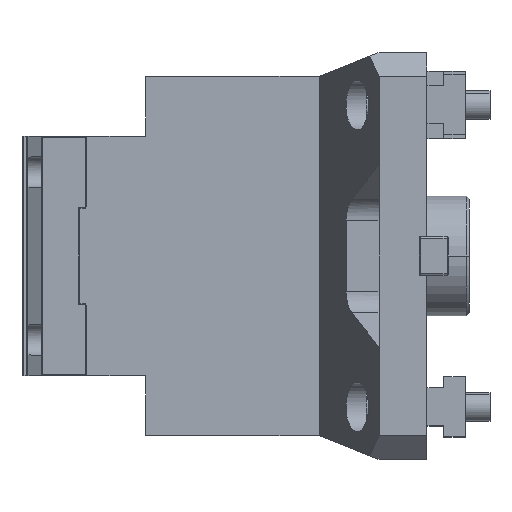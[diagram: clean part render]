
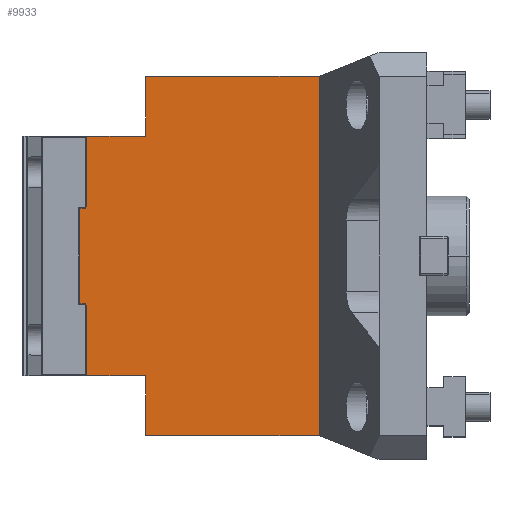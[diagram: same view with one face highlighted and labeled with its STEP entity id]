
A CAD part, left-side view. The second image highlights one B-rep face of the part: STEP entity #9933.
In plain terms, the highlighted planar face has unit normal (-1, 0, 0).
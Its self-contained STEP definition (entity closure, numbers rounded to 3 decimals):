
#6 = CARTESIAN_POINT ( 'NONE',  ( -75., 97.5, -50. ) ) ;
#396 = CARTESIAN_POINT ( 'NONE',  ( -75., 72.5, -50. ) ) ;
#1030 = VERTEX_POINT ( 'NONE', #31580 ) ;
#1433 = ORIENTED_EDGE ( 'NONE', *, *, #30300, .F. ) ;
#2000 = CARTESIAN_POINT ( 'NONE',  ( -75., 72.5, 50. ) ) ;
#2564 = DIRECTION ( 'NONE',  ( 0., 0., 1. ) ) ;
#3222 = CARTESIAN_POINT ( 'NONE',  ( -75., 100., 20. ) ) ;
#3293 = VECTOR ( 'NONE', #2564, 1000. ) ;
#3444 = VERTEX_POINT ( 'NONE', #17048 ) ;
#3758 = LINE ( 'NONE', #15287, #25433 ) ;
#3960 = ORIENTED_EDGE ( 'NONE', *, *, #22688, .F. ) ;
#4500 = DIRECTION ( 'NONE',  ( 0., 0., 1. ) ) ;
#4601 = LINE ( 'NONE', #16521, #17486 ) ;
#4792 = DIRECTION ( 'NONE',  ( 0., -1., 0. ) ) ;
#4864 = CARTESIAN_POINT ( 'NONE',  ( -75., 72.5, 50. ) ) ;
#5556 = ORIENTED_EDGE ( 'NONE', *, *, #13293, .F. ) ;
#5874 = EDGE_CURVE ( 'NONE', #3444, #35717, #29822, .T. ) ;
#6467 = EDGE_CURVE ( 'NONE', #13997, #1030, #38258, .T. ) ;
#6646 = ORIENTED_EDGE ( 'NONE', *, *, #6467, .F. ) ;
#7533 = VERTEX_POINT ( 'NONE', #12058 ) ;
#8483 = DIRECTION ( 'NONE',  ( 0., 1., 0. ) ) ;
#8523 = CARTESIAN_POINT ( 'NONE',  ( -75., 100., 20. ) ) ;
#8682 = CARTESIAN_POINT ( 'NONE',  ( -75., 100., -20. ) ) ;
#8690 = VECTOR ( 'NONE', #37823, 1000. ) ;
#9063 = EDGE_CURVE ( 'NONE', #23863, #15618, #3758, .T. ) ;
#9705 = LINE ( 'NONE', #21617, #18664 ) ;
#9728 = EDGE_LOOP ( 'NONE', ( #18579, #5556, #30608, #6646, #11681, #1433, #37434, #33172, #18544, #3960, #17413, #16156 ) ) ;
#9933 = ADVANCED_FACE ( 'NONE', ( #11295 ), #26285, .F. ) ;
#9989 = VECTOR ( 'NONE', #17664, 1000. ) ;
#11295 = FACE_OUTER_BOUND ( 'NONE', #9728, .T. ) ;
#11502 = LINE ( 'NONE', #17173, #20966 ) ;
#11681 = ORIENTED_EDGE ( 'NONE', *, *, #18766, .F. ) ;
#12058 = CARTESIAN_POINT ( 'NONE',  ( -75., 0., 75. ) ) ;
#13293 = EDGE_CURVE ( 'NONE', #23313, #23863, #9705, .T. ) ;
#13997 = VERTEX_POINT ( 'NONE', #16000 ) ;
#14740 = VERTEX_POINT ( 'NONE', #2000 ) ;
#15287 = CARTESIAN_POINT ( 'NONE',  ( -75., 97.5, 20. ) ) ;
#15354 = VECTOR ( 'NONE', #28015, 1000. ) ;
#15618 = VERTEX_POINT ( 'NONE', #24535 ) ;
#15839 = VECTOR ( 'NONE', #26144, 1000. ) ;
#16000 = CARTESIAN_POINT ( 'NONE',  ( -75., 97.5, -20. ) ) ;
#16014 = LINE ( 'NONE', #24526, #15354 ) ;
#16156 = ORIENTED_EDGE ( 'NONE', *, *, #30059, .F. ) ;
#16521 = CARTESIAN_POINT ( 'NONE',  ( -75., 97.5, 50. ) ) ;
#17048 = CARTESIAN_POINT ( 'NONE',  ( -75., 72.5, -75. ) ) ;
#17173 = CARTESIAN_POINT ( 'NONE',  ( -75., 0., -75. ) ) ;
#17404 = VERTEX_POINT ( 'NONE', #6 ) ;
#17413 = ORIENTED_EDGE ( 'NONE', *, *, #22209, .F. ) ;
#17416 = LINE ( 'NONE', #29043, #8690 ) ;
#17486 = VECTOR ( 'NONE', #4792, 1000. ) ;
#17664 = DIRECTION ( 'NONE',  ( 0., 0., 1. ) ) ;
#18544 = ORIENTED_EDGE ( 'NONE', *, *, #24832, .F. ) ;
#18579 = ORIENTED_EDGE ( 'NONE', *, *, #9063, .F. ) ;
#18664 = VECTOR ( 'NONE', #27623, 1000. ) ;
#18766 = EDGE_CURVE ( 'NONE', #17404, #13997, #22642, .T. ) ;
#19861 = VERTEX_POINT ( 'NONE', #22803 ) ;
#20451 = DIRECTION ( 'NONE',  ( 0., 0., -1. ) ) ;
#20966 = VECTOR ( 'NONE', #29399, 1000. ) ;
#21617 = CARTESIAN_POINT ( 'NONE',  ( -75., 97.5, 20. ) ) ;
#22209 = EDGE_CURVE ( 'NONE', #14740, #36056, #22434, .T. ) ;
#22320 = VECTOR ( 'NONE', #4500, 1000. ) ;
#22405 = CARTESIAN_POINT ( 'NONE',  ( -75., 72.5, 75. ) ) ;
#22434 = LINE ( 'NONE', #4864, #22320 ) ;
#22611 = CARTESIAN_POINT ( 'NONE',  ( -75., 97.5, 20. ) ) ;
#22642 = LINE ( 'NONE', #28840, #3293 ) ;
#22688 = EDGE_CURVE ( 'NONE', #36056, #7533, #17416, .T. ) ;
#22803 = CARTESIAN_POINT ( 'NONE',  ( -75., 0., -75. ) ) ;
#23313 = VERTEX_POINT ( 'NONE', #8523 ) ;
#23347 = CARTESIAN_POINT ( 'NONE',  ( -75., 0., 0. ) ) ;
#23863 = VERTEX_POINT ( 'NONE', #22611 ) ;
#24526 = CARTESIAN_POINT ( 'NONE',  ( -75., 72.5, -75. ) ) ;
#24535 = CARTESIAN_POINT ( 'NONE',  ( -75., 97.5, 50. ) ) ;
#24832 = EDGE_CURVE ( 'NONE', #7533, #19861, #11502, .T. ) ;
#25433 = VECTOR ( 'NONE', #30218, 1000. ) ;
#26144 = DIRECTION ( 'NONE',  ( 0., 0., 1. ) ) ;
#26285 = PLANE ( 'NONE',  #36089 ) ;
#26399 = VECTOR ( 'NONE', #8483, 1000. ) ;
#27283 = DIRECTION ( 'NONE',  ( 0., 1., 0. ) ) ;
#27623 = DIRECTION ( 'NONE',  ( 0., -1., 0. ) ) ;
#28015 = DIRECTION ( 'NONE',  ( 0., 1., 0. ) ) ;
#28840 = CARTESIAN_POINT ( 'NONE',  ( -75., 97.5, -50. ) ) ;
#28894 = EDGE_CURVE ( 'NONE', #1030, #23313, #36308, .T. ) ;
#29043 = CARTESIAN_POINT ( 'NONE',  ( -75., 72.5, 75. ) ) ;
#29399 = DIRECTION ( 'NONE',  ( 0., 0., -1. ) ) ;
#29698 = CARTESIAN_POINT ( 'NONE',  ( -75., 72.5, -50. ) ) ;
#29822 = LINE ( 'NONE', #32389, #15839 ) ;
#30059 = EDGE_CURVE ( 'NONE', #15618, #14740, #4601, .T. ) ;
#30218 = DIRECTION ( 'NONE',  ( 0., 0., 1. ) ) ;
#30300 = EDGE_CURVE ( 'NONE', #35717, #17404, #32383, .T. ) ;
#30546 = VECTOR ( 'NONE', #27283, 1000. ) ;
#30608 = ORIENTED_EDGE ( 'NONE', *, *, #28894, .F. ) ;
#31580 = CARTESIAN_POINT ( 'NONE',  ( -75., 100., -20. ) ) ;
#32383 = LINE ( 'NONE', #396, #30546 ) ;
#32389 = CARTESIAN_POINT ( 'NONE',  ( -75., 72.5, -75. ) ) ;
#33172 = ORIENTED_EDGE ( 'NONE', *, *, #34310, .F. ) ;
#34310 = EDGE_CURVE ( 'NONE', #19861, #3444, #16014, .T. ) ;
#35717 = VERTEX_POINT ( 'NONE', #29698 ) ;
#36056 = VERTEX_POINT ( 'NONE', #22405 ) ;
#36089 = AXIS2_PLACEMENT_3D ( 'NONE', #23347, #37756, #20451 ) ;
#36308 = LINE ( 'NONE', #3222, #9989 ) ;
#37434 = ORIENTED_EDGE ( 'NONE', *, *, #5874, .F. ) ;
#37756 = DIRECTION ( 'NONE',  ( 1., 0., 0. ) ) ;
#37823 = DIRECTION ( 'NONE',  ( 0., -1., 0. ) ) ;
#38258 = LINE ( 'NONE', #8682, #26399 ) ;
